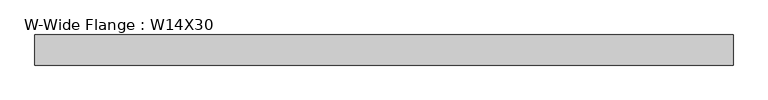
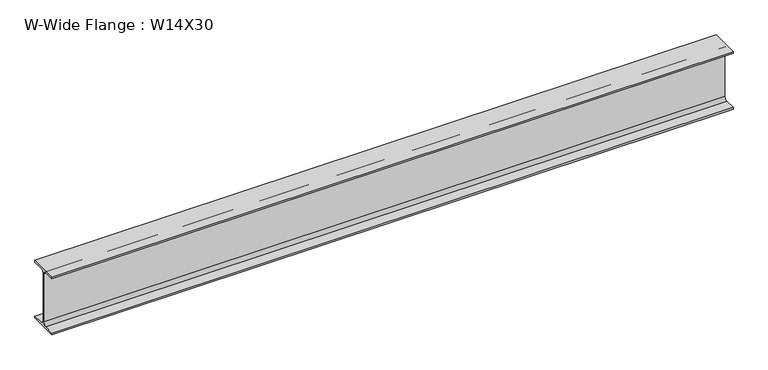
"""IFC4 building model written with IfcOpenShell, lengths in millimetres: beam geometry, W-Wide Flange : W14X30."""

from ifc_helpers import new_model, si_unit, point, frame, frame_2d, origin, place, context, project, spatial, polyline, circle_curve, trimmed, segment, composite_curve, outline, extrude, source, transform, mapped, element, save


def w_wide_flange_w14x30_17857959(model_context):
    return source(origin(), model_context, "Body", "SweptSolid", [
        extrude(outline(composite_curve([segment(polyline([(85.4769531, -165.9433594), (85.4769531, -175.7660156), (-85.4769531, -175.7660156), (-85.4769531, -165.9433594), (-22.1753906, -165.9433594)]), True, "CONTINUOUS"), segment(trimmed(circle_curve(frame_2d((-22.1753906, -147.1910156)), 18.7523438), [point((-22.1753906, -165.9433594))], [point((-3.4230469, -147.1910156))], True, "CARTESIAN"), True, "CONTINUOUS"), segment(polyline([(-3.4230469, -147.1910156), (-3.4230469, 147.1910156)]), True, "CONTINUOUS"), segment(trimmed(circle_curve(frame_2d((-22.1753906, 147.1910156)), 18.7523438), [point((-3.4230469, 147.1910156))], [point((-22.1753906, 165.9433594))], True, "CARTESIAN"), True, "CONTINUOUS"), segment(polyline([(-22.1753906, 165.9433594), (-85.4769531, 165.9433594), (-85.4769531, 175.7660156), (85.4769531, 175.7660156), (85.4769531, 165.9433594), (22.1753906, 165.9433594)]), True, "CONTINUOUS"), segment(trimmed(circle_curve(frame_2d((22.1753906, 147.1910156)), 18.7523438), [point((22.1753906, 165.9433594))], [point((3.4230469, 147.1910156))], True, "CARTESIAN"), True, "CONTINUOUS"), segment(polyline([(3.4230469, 147.1910156), (3.4230469, -147.1910156)]), True, "CONTINUOUS"), segment(trimmed(circle_curve(frame_2d((22.1753906, -147.1910156)), 18.7523438), [point((3.4230469, -147.1910156))], [point((22.1753906, -165.9433594))], True, "CARTESIAN"), True, "CONTINUOUS"), segment(polyline([(22.1753906, -165.9433594), (85.4769531, -165.9433594)]), True, "CONTINUOUS")], self_intersect=False)), frame((-1963.4835, 0.0, 0.0), z_axis=(1.0, 0.0, 0.0), x_axis=(0.0, 1.0, 0.0)), (0.0, 0.0, 1.0), 3956.0440469),
    ])


if __name__ == "__main__":
    model = new_model("IFC4")
    model_context = context("Model", 3, world=origin())
    ifc_project = project(units=[si_unit("LENGTHUNIT", "METRE", prefix="MILLI")], contexts=[model_context])
    site = spatial("IfcSite", under=ifc_project)
    building = spatial("IfcBuilding", under=site)
    placement = place(None, origin())
    w_wide_flange_w14x30_shape = w_wide_flange_w14x30_17857959(model_context)
    element("IfcBeam", 1, ObjectType="W-Wide Flange : W14X30", at=placement, inside=building, context=model_context, shape_type="MappedRepresentation", body=[
        mapped(w_wide_flange_w14x30_shape, transform((0.0, 0.0, 0.0), x_axis=(1.0, 0.0, 0.0), y_axis=(0.0, 1.0, 0.0), z_axis=(0.0, 0.0, 1.0))),
    ])
    save(model, "model.ifc")
